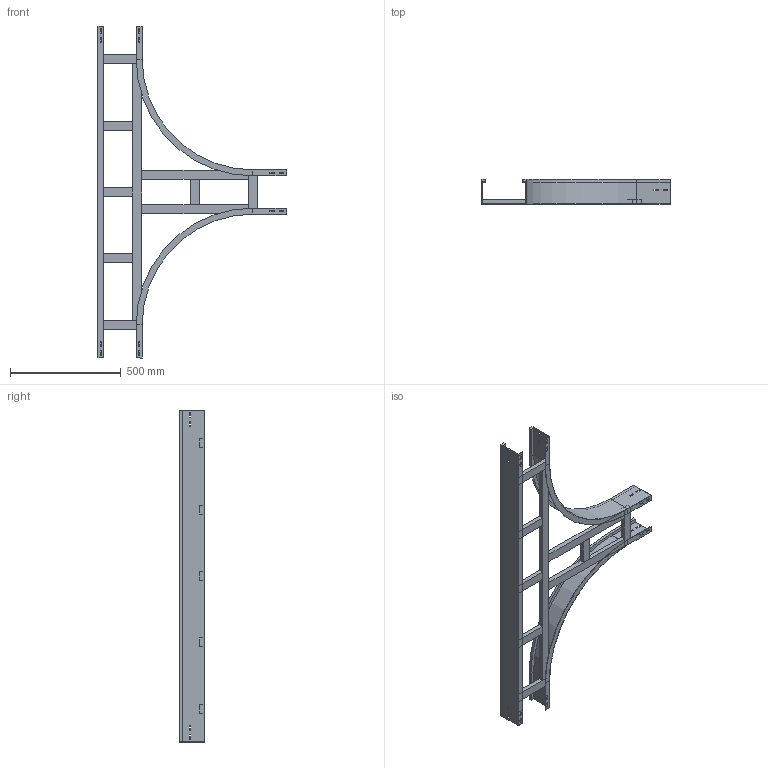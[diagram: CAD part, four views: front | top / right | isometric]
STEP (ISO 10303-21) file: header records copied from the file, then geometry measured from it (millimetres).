
FILE_DESCRIPTION (( 'STEP AP214' ), '1' );
FILE_NAME ('15B5J200.step', '2025-02-21T15:50:34', ( '' ), ( '' ), 'SwSTEP 2.0', 'SolidWorks 2023', '' );
FILE_SCHEMA (( 'AUTOMOTIVE_DESIGN' ));
Length unit declared in the file: millimetre
Products named in the file (8): TRAVERSINO_COPPIA_200; TRAVERSINO_VERT_R500; LONGH.INTERNO 90°_H112.5_R500; TRAVERSINO_200; TRAVERSINO_INTERMEDIO_R500+200; 15B5J200; LONGH.RETT_H112.5_R500+200; TRAVERSINO_LONG._R500+200
Assembly tree (13 placements, depth 2):
  15B5J200
    LONGH.INTERNO 90°_H112.5_R500  x2
    LONGH.RETT_H112.5_R500+200
    TRAVERSINO_200  x3
    TRAVERSINO_LONG._R500+200
    TRAVERSINO_INTERMEDIO_R500+200  x3
    TRAVERSINO_VERT_R500  x2
    TRAVERSINO_COPPIA_200
Bounding box: 850 x 112.5 x 1500 mm (x, y, z)
Volume: 4382811.3 mm3; surface area: 1559166.8 mm2
Topology: 13 solids, 13 shells, 218 faces, 544 edges, 352 vertices
Faces by surface type: plane 210, cylinder 8
Entity records: 4201 total; most frequent: CARTESIAN_POINT 694, ORIENTED_EDGE 664, DIRECTION 632, EDGE_CURVE 332, VECTOR 324, LINE 324, VERTEX_POINT 216, EDGE_LOOP 162
